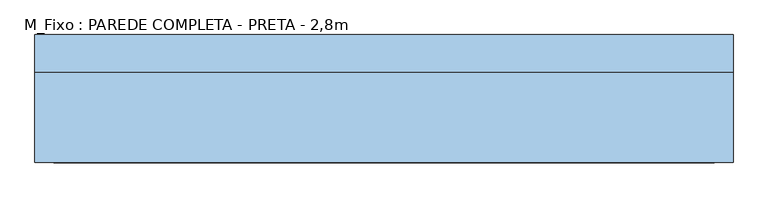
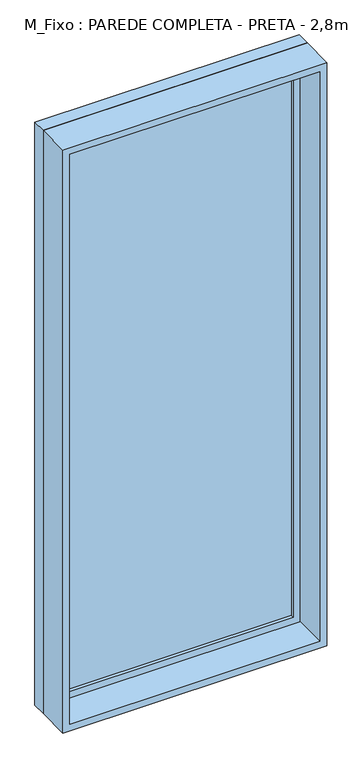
"""IFC4 building model written with IfcOpenShell, lengths in millimetres: window geometry, M_Fixo : PAREDE COMPLETA - PRETA - 2,8m."""

from ifc_helpers import new_model, si_unit, frame, origin, place, context, project, spatial, polyline, outline, extrude, source, transform, mapped, element, save


def m_fixo_parede_completa_preta_2_8m_a4844c1d(model_context):
    return source(origin(), model_context, "Body", "SweptSolid", [
        extrude(outline(polyline([(-537.0, 87.0), (537.0, 87.0), (537.0, 75.0), (-537.0, 75.0), (-537.0, 87.0)])), frame((0.0, 0.0, 1563.0), z_axis=(0.0, 0.0, 1.0), x_axis=(1.0, 0.0, 0.0)), (0.0, 0.0, 1.0), 2674.0),
        extrude(outline(polyline([(4281.0, -581.0), (1519.0, -581.0), (1519.0, 581.0), (4281.0, 581.0), (4281.0, -581.0)]), holes=[polyline([(4237.0, -537.0), (4237.0, 537.0), (1563.0, 537.0), (1563.0, -537.0), (4237.0, -537.0)])]), frame((0.0, 59.0, 0.0), z_axis=(0.0, 1.0, 0.0), x_axis=(0.0, 0.0, 1.0)), (0.0, 0.0, 1.0), 44.0),
        extrude(outline(polyline([(4300.0, -600.0), (1500.0, -600.0), (1500.0, 600.0), (4300.0, 600.0), (4300.0, -600.0)]), holes=[polyline([(4281.0, -581.0), (4281.0, 581.0), (1519.0, 581.0), (1519.0, -581.0), (4281.0, -581.0)])]), frame((0.0, 59.0, 0.0), z_axis=(0.0, 1.0, 0.0), x_axis=(0.0, 0.0, 1.0)), (0.0, 0.0, 1.0), 64.0),
        extrude(outline(polyline([(4300.0, -600.0), (1500.0, -600.0), (1500.0, 600.0), (4300.0, 600.0), (4300.0, -600.0)]), holes=[polyline([(4268.0, -568.0), (4268.0, 568.0), (1532.0, 568.0), (1532.0, -568.0), (4268.0, -568.0)])]), frame((0.0, -97.0, 0.0), z_axis=(0.0, 1.0, 0.0), x_axis=(0.0, 0.0, 1.0)), (0.0, 0.0, 1.0), 156.0),
    ])


if __name__ == "__main__":
    model = new_model("IFC4")
    model_context = context("Model", 3, world=origin())
    ifc_project = project(units=[si_unit("LENGTHUNIT", "METRE", prefix="MILLI")], contexts=[model_context])
    site = spatial("IfcSite", under=ifc_project)
    building = spatial("IfcBuilding", under=site)
    placement = place(None, origin())
    m_fixo_parede_completa_preta_2_8m_shape = m_fixo_parede_completa_preta_2_8m_a4844c1d(model_context)
    element("IfcWindow", 1, ObjectType="M_Fixo : PAREDE COMPLETA - PRETA - 2,8m", at=placement, inside=building, context=model_context, shape_type="MappedRepresentation", body=[
        mapped(m_fixo_parede_completa_preta_2_8m_shape, transform((0.0, 0.0, 0.0), x_axis=(1.0, 0.0, 0.0), y_axis=(0.0, 1.0, 0.0), z_axis=(0.0, 0.0, 1.0))),
    ])
    save(model, "model.ifc")
